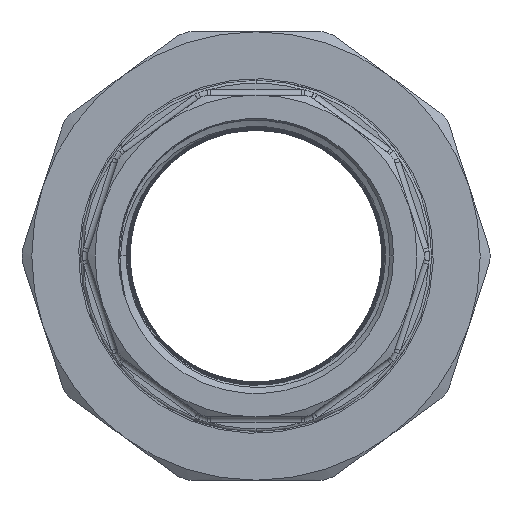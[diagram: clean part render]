
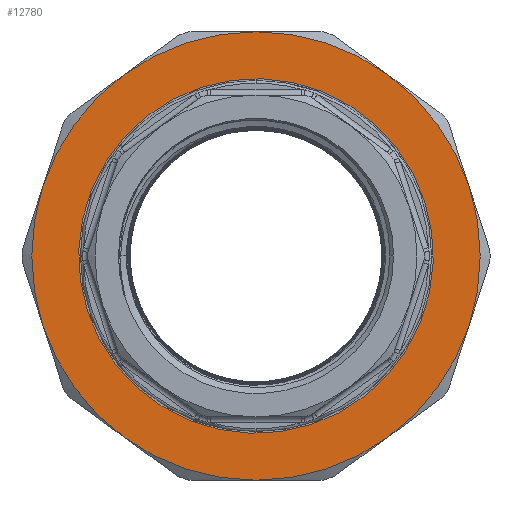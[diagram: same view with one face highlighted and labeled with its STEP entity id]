
A CAD part, front view. The second image highlights one B-rep face of the part: STEP entity #12780.
In plain terms, the highlighted planar face has unit normal (0, -1, 0) as drawn and (0, 1, 0) by its records, which use the part's own axes.
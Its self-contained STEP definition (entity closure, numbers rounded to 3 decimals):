
#192 = VERTEX_POINT ( 'NONE', #10798 ) ;
#696 = CARTESIAN_POINT ( 'NONE',  ( 0., 24.5, 0. ) ) ;
#2212 = DIRECTION ( 'NONE',  ( 0., 0., 1. ) ) ;
#2520 = ORIENTED_EDGE ( 'NONE', *, *, #12097, .F. ) ;
#2647 = DIRECTION ( 'NONE',  ( 0., 0., 1. ) ) ;
#2825 = EDGE_LOOP ( 'NONE', ( #40778, #22603, #22693, #12833, #35714, #34482, #13148, #37596, #40209, #38121 ) ) ;
#2855 = DIRECTION ( 'NONE',  ( 0., 1., 0. ) ) ;
#3868 = CIRCLE ( 'NONE', #9238, 30.85 ) ;
#4524 = FACE_OUTER_BOUND ( 'NONE', #2825, .T. ) ;
#5285 = DIRECTION ( 'NONE',  ( 0., 1., 0. ) ) ;
#5469 = VERTEX_POINT ( 'NONE', #19304 ) ;
#5719 = CARTESIAN_POINT ( 'NONE',  ( 22.924, 24.5, -31.552 ) ) ;
#6113 = AXIS2_PLACEMENT_3D ( 'NONE', #24373, #37123, #11790 ) ;
#7099 = DIRECTION ( 'NONE',  ( 0., 0., 1. ) ) ;
#7222 = AXIS2_PLACEMENT_3D ( 'NONE', #7610, #20788, #23535 ) ;
#7610 = CARTESIAN_POINT ( 'NONE',  ( 0., 24.5, 0. ) ) ;
#7815 = AXIS2_PLACEMENT_3D ( 'NONE', #30905, #18138, #2212 ) ;
#7992 = VERTEX_POINT ( 'NONE', #39445 ) ;
#8116 = AXIS2_PLACEMENT_3D ( 'NONE', #20199, #17047, #10776 ) ;
#8117 = EDGE_CURVE ( 'NONE', #12964, #34310, #36771, .T. ) ;
#8125 = EDGE_CURVE ( 'NONE', #36810, #5469, #34763, .T. ) ;
#9238 = AXIS2_PLACEMENT_3D ( 'NONE', #39117, #35581, #7099 ) ;
#9357 = DIRECTION ( 'NONE',  ( 0., 1., 0. ) ) ;
#9774 = CIRCLE ( 'NONE', #39828, 39. ) ;
#10714 = CARTESIAN_POINT ( 'NONE',  ( -22.924, 24.5, -31.552 ) ) ;
#10776 = DIRECTION ( 'NONE',  ( 0., 0., 1. ) ) ;
#10798 = CARTESIAN_POINT ( 'NONE',  ( 37.091, 24.5, 12.052 ) ) ;
#11790 = DIRECTION ( 'NONE',  ( 0., 0., 1. ) ) ;
#12097 = EDGE_CURVE ( 'NONE', #34310, #12964, #3868, .T. ) ;
#12310 = VERTEX_POINT ( 'NONE', #36960 ) ;
#12490 = CARTESIAN_POINT ( 'NONE',  ( 0., 24.5, 0. ) ) ;
#12780 = ADVANCED_FACE ( 'NONE', ( #36357, #4524 ), #36768, .T. ) ;
#12833 = ORIENTED_EDGE ( 'NONE', *, *, #24756, .T. ) ;
#12922 = AXIS2_PLACEMENT_3D ( 'NONE', #34886, #9357, #18366 ) ;
#12964 = VERTEX_POINT ( 'NONE', #29604 ) ;
#13148 = ORIENTED_EDGE ( 'NONE', *, *, #38185, .T. ) ;
#13170 = CIRCLE ( 'NONE', #19185, 39. ) ;
#13449 = VERTEX_POINT ( 'NONE', #16189 ) ;
#13985 = EDGE_CURVE ( 'NONE', #27261, #12310, #13170, .T. ) ;
#16032 = EDGE_CURVE ( 'NONE', #33994, #25570, #20826, .T. ) ;
#16189 = CARTESIAN_POINT ( 'NONE',  ( 22.924, 24.5, 31.552 ) ) ;
#16422 = DIRECTION ( 'NONE',  ( 0., 1., 0. ) ) ;
#17047 = DIRECTION ( 'NONE',  ( 0., 1., 0. ) ) ;
#17166 = CIRCLE ( 'NONE', #7815, 39. ) ;
#17724 = DIRECTION ( 'NONE',  ( 0., 0., 1. ) ) ;
#17881 = EDGE_LOOP ( 'NONE', ( #40635, #2520 ) ) ;
#17984 = CARTESIAN_POINT ( 'NONE',  ( -22.924, 24.5, 31.552 ) ) ;
#18138 = DIRECTION ( 'NONE',  ( 0., 1., 0. ) ) ;
#18230 = CARTESIAN_POINT ( 'NONE',  ( -37.091, 24.5, 12.052 ) ) ;
#18366 = DIRECTION ( 'NONE',  ( 0., 0., 1. ) ) ;
#18876 = DIRECTION ( 'NONE',  ( 0., 0., 1. ) ) ;
#18903 = DIRECTION ( 'NONE',  ( 0., 0., 1. ) ) ;
#19185 = AXIS2_PLACEMENT_3D ( 'NONE', #21713, #21503, #22121 ) ;
#19304 = CARTESIAN_POINT ( 'NONE',  ( -37.091, 24.5, -12.052 ) ) ;
#19988 = DIRECTION ( 'NONE',  ( 0., 0., 1. ) ) ;
#20199 = CARTESIAN_POINT ( 'NONE',  ( 0., 24.5, 0. ) ) ;
#20444 = EDGE_CURVE ( 'NONE', #13449, #192, #23052, .T. ) ;
#20788 = DIRECTION ( 'NONE',  ( 0., 1., 0. ) ) ;
#20826 = CIRCLE ( 'NONE', #31502, 39. ) ;
#21033 = AXIS2_PLACEMENT_3D ( 'NONE', #34989, #28284, #18876 ) ;
#21503 = DIRECTION ( 'NONE',  ( 0., 1., 0. ) ) ;
#21713 = CARTESIAN_POINT ( 'NONE',  ( 0., 24.5, 0. ) ) ;
#22121 = DIRECTION ( 'NONE',  ( 0., 0., 1. ) ) ;
#22300 = CIRCLE ( 'NONE', #12922, 39. ) ;
#22603 = ORIENTED_EDGE ( 'NONE', *, *, #26941, .T. ) ;
#22693 = ORIENTED_EDGE ( 'NONE', *, *, #20444, .T. ) ;
#23052 = CIRCLE ( 'NONE', #21033, 39. ) ;
#23116 = EDGE_CURVE ( 'NONE', #37019, #33994, #17166, .T. ) ;
#23535 = DIRECTION ( 'NONE',  ( 0., 0., 1. ) ) ;
#24221 = DIRECTION ( 'NONE',  ( 0., 1., 0. ) ) ;
#24373 = CARTESIAN_POINT ( 'NONE',  ( 0., 24.5, 0. ) ) ;
#24756 = EDGE_CURVE ( 'NONE', #192, #7992, #40738, .T. ) ;
#25155 = DIRECTION ( 'NONE',  ( 0., 0., 1. ) ) ;
#25177 = DIRECTION ( 'NONE',  ( 0., 1., 0. ) ) ;
#25570 = VERTEX_POINT ( 'NONE', #40617 ) ;
#26941 = EDGE_CURVE ( 'NONE', #25570, #13449, #9774, .T. ) ;
#27261 = VERTEX_POINT ( 'NONE', #5719 ) ;
#27332 = CIRCLE ( 'NONE', #29321, 39. ) ;
#28284 = DIRECTION ( 'NONE',  ( 0., 1., 0. ) ) ;
#29321 = AXIS2_PLACEMENT_3D ( 'NONE', #34190, #25177, #18903 ) ;
#29604 = CARTESIAN_POINT ( 'NONE',  ( 0., 24.5, 30.85 ) ) ;
#29860 = AXIS2_PLACEMENT_3D ( 'NONE', #30057, #24221, #17724 ) ;
#30057 = CARTESIAN_POINT ( 'NONE',  ( 0., 24.5, 0. ) ) ;
#30098 = EDGE_CURVE ( 'NONE', #7992, #27261, #27332, .T. ) ;
#30905 = CARTESIAN_POINT ( 'NONE',  ( 0., 24.5, 0. ) ) ;
#31502 = AXIS2_PLACEMENT_3D ( 'NONE', #40451, #5285, #25155 ) ;
#33230 = EDGE_CURVE ( 'NONE', #5469, #37019, #22300, .T. ) ;
#33380 = AXIS2_PLACEMENT_3D ( 'NONE', #12490, #2855, #2647 ) ;
#33994 = VERTEX_POINT ( 'NONE', #17984 ) ;
#34190 = CARTESIAN_POINT ( 'NONE',  ( 0., 24.5, 0. ) ) ;
#34310 = VERTEX_POINT ( 'NONE', #38995 ) ;
#34482 = ORIENTED_EDGE ( 'NONE', *, *, #13985, .T. ) ;
#34763 = CIRCLE ( 'NONE', #6113, 39. ) ;
#34886 = CARTESIAN_POINT ( 'NONE',  ( 0., 24.5, 0. ) ) ;
#34989 = CARTESIAN_POINT ( 'NONE',  ( 0., 24.5, 0. ) ) ;
#35581 = DIRECTION ( 'NONE',  ( 0., 1., 0. ) ) ;
#35714 = ORIENTED_EDGE ( 'NONE', *, *, #30098, .T. ) ;
#36357 = FACE_BOUND ( 'NONE', #17881, .T. ) ;
#36768 = PLANE ( 'NONE',  #29860 ) ;
#36771 = CIRCLE ( 'NONE', #8116, 30.85 ) ;
#36810 = VERTEX_POINT ( 'NONE', #10714 ) ;
#36960 = CARTESIAN_POINT ( 'NONE',  ( 0., 24.5, -39. ) ) ;
#37019 = VERTEX_POINT ( 'NONE', #18230 ) ;
#37123 = DIRECTION ( 'NONE',  ( 0., 1., 0. ) ) ;
#37270 = CIRCLE ( 'NONE', #7222, 39. ) ;
#37596 = ORIENTED_EDGE ( 'NONE', *, *, #8125, .T. ) ;
#38121 = ORIENTED_EDGE ( 'NONE', *, *, #23116, .T. ) ;
#38185 = EDGE_CURVE ( 'NONE', #12310, #36810, #37270, .T. ) ;
#38995 = CARTESIAN_POINT ( 'NONE',  ( 0., 24.5, -30.85 ) ) ;
#39117 = CARTESIAN_POINT ( 'NONE',  ( 0., 24.5, 0. ) ) ;
#39445 = CARTESIAN_POINT ( 'NONE',  ( 37.091, 24.5, -12.052 ) ) ;
#39828 = AXIS2_PLACEMENT_3D ( 'NONE', #696, #16422, #19988 ) ;
#40209 = ORIENTED_EDGE ( 'NONE', *, *, #33230, .T. ) ;
#40451 = CARTESIAN_POINT ( 'NONE',  ( 0., 24.5, 0. ) ) ;
#40617 = CARTESIAN_POINT ( 'NONE',  ( 0., 24.5, 39. ) ) ;
#40635 = ORIENTED_EDGE ( 'NONE', *, *, #8117, .F. ) ;
#40738 = CIRCLE ( 'NONE', #33380, 39. ) ;
#40778 = ORIENTED_EDGE ( 'NONE', *, *, #16032, .T. ) ;
